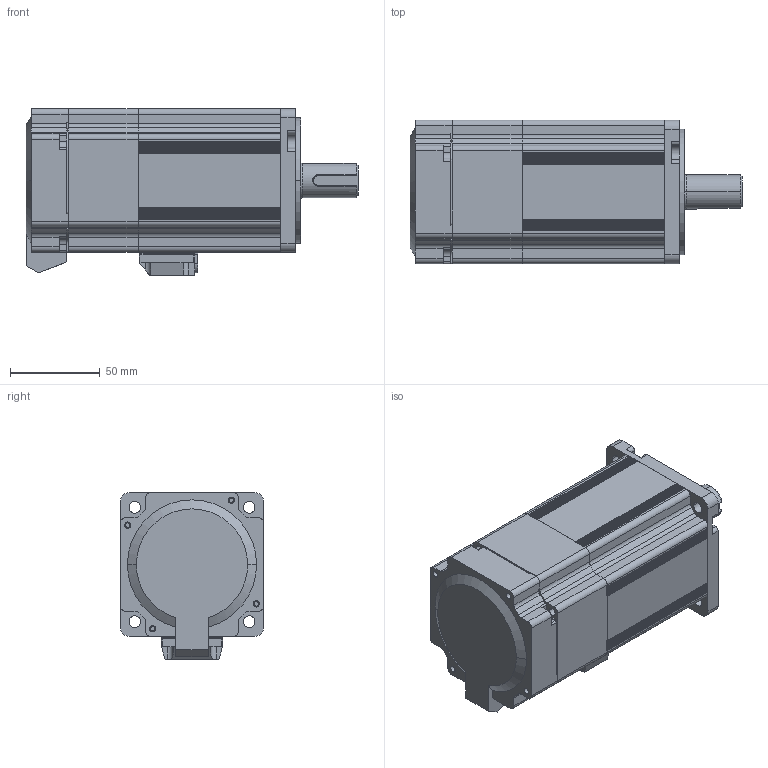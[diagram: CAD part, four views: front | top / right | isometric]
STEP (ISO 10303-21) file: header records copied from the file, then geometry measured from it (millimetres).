
FILE_DESCRIPTION (( 'STEP AP203' ), '1' );
FILE_NAME ('MS6S-80CS(CM)30BZ2-20P7.STEP', '2020-09-09T07:18:33', ( '' ), ( '' ), 'SwSTEP 2.0', 'SolidWorks 2016', '' );
FILE_SCHEMA (( 'CONFIG_CONTROL_DESIGN' ));
Length unit declared in the file: millimetre
Products named in the file (1): MS6S-80CS(CM)30BZ2-20P7
Bounding box: 185 x 80 x 92.8 mm (x, y, z)
Surface area: 86517.8 mm2 (no closed solid volume)
Topology: 0 solids, 172 shells, 1877 faces, 6538 edges, 4751 vertices
Faces by surface type: cylinder 1150, plane 621, cone 34, bspline 29, sphere 28, torus 15
Entity records: 72240 total; most frequent: CARTESIAN_POINT 14556, DIRECTION 13130, ORIENTED_EDGE 10311, EDGE_CURVE 6534, AXIS2_PLACEMENT_3D 4849, VERTEX_POINT 4751, VECTOR 3432, LINE 3432
